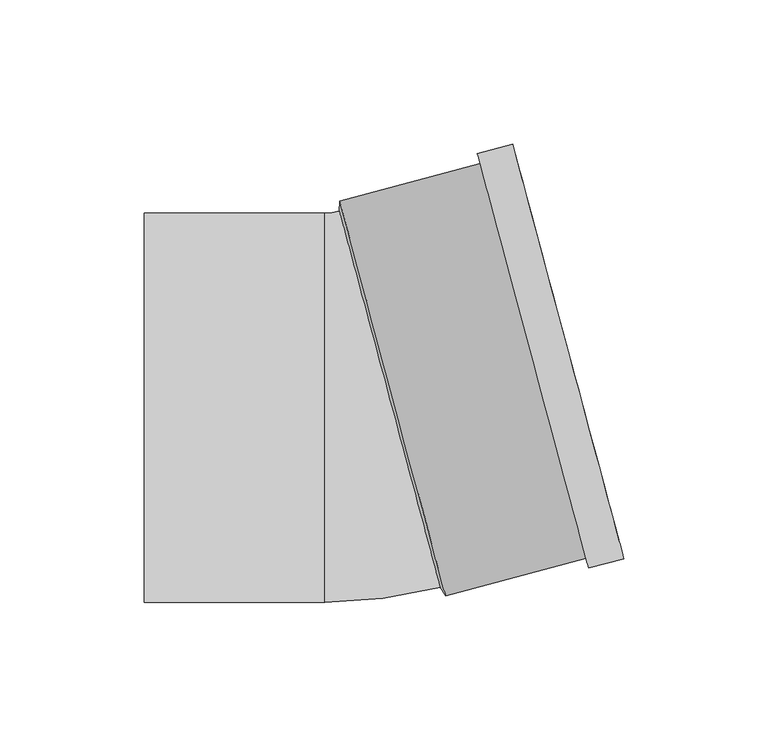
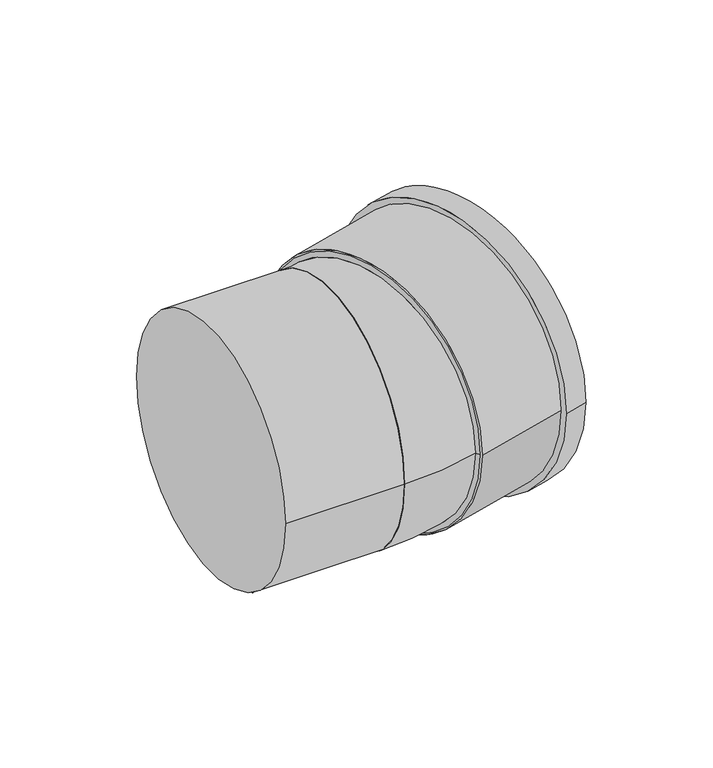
"""IFC4 building model written with IfcOpenShell, lengths in millimetres: pipe fitting geometry, Superdrain SKB Bend : Superdrain SKB Bend."""

from ifc_helpers import new_model, si_unit, point, frame, origin, origin_2d, place, context, project, spatial, polyline, circle_curve, ellipse_curve, trimmed, segment, composite_curve, outline, extrude, source, transform, mapped, element, save
from ifc_brep_helpers import plane_surface, revolved_surface, advanced_brep


def pipe_fitting_2441ba4f(model_context):
    return source(origin(), model_context, "Body", "SolidModel", [
        advanced_brep(
        [(28.5784325, -62.2235743, 0.0), (-6.3621385, 68.1764123, 0.0), (-11.5, -67.5, 0.0), (-11.5, 67.5, 0.0)],
        [
            (0, 1, circle_curve(frame((11.108147, 2.976419, 0.0), z_axis=(0.9659258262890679, 0.25881904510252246, 0.0), x_axis=(-0.25881904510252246, 0.9659258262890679, 0.0)), 67.5)),
            (1, 0, circle_curve(frame((11.108147, 2.976419, 0.0), z_axis=(0.9659258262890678, 0.2588190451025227, 0.0), x_axis=(-0.2588190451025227, 0.9659258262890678, 0.0)), 67.5)),
            (2, 3, circle_curve(frame((-11.5, 0.0, 0.0), z_axis=(-1.0, 0.0, 0.0), x_axis=(0.0, 1.0, 0.0)), 67.5)),
            (3, 2, circle_curve(frame((-11.5, 0.0, 0.0), z_axis=(-1.0, 0.0, 0.0), x_axis=(0.0, 1.0, 0.0)), 67.5)),
            (3, 1, circle_curve(frame((-11.5, 87.3511723, 0.0), z_axis=(0.0, 0.0, 1.0), x_axis=(1.0, 0.0, 0.0)), 19.8511723)),
            (0, 2, circle_curve(frame((-11.5, 87.3511723, 0.0), z_axis=(0.0, 0.0, -1.0), x_axis=(1.0, 0.0, 0.0)), 154.8511723)),
        ],
        [
            plane_surface(frame((11.108147, 2.976419, 0.0), z_axis=(0.9659258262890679, 0.25881904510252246, 0.0), x_axis=(0.0, 0.0, -1.0))),
            plane_surface(frame((-11.5, 0.0, 0.0), z_axis=(-1.0, 0.0, 0.0), x_axis=(0.0, 0.0, -1.0))),
            revolved_surface(trimmed(ellipse_curve(frame((75.8511723, 87.3511723, 0.0), z_axis=(0.0, -1.0, 0.0), x_axis=(-1.0, 0.0, 0.0)), 67.5, 67.5), [point((8.3511723, 87.3511723, 0.0))], [point((143.3511723, 87.3511723, 0.0))], True, "CARTESIAN"), (-11.5, 87.3511723, 0.0), (0.0, 0.0, 1.0)),
            revolved_surface(trimmed(ellipse_curve(frame((75.8511723, 87.3511723, 0.0), z_axis=(0.0, -1.0, 0.0), x_axis=(-1.0, 0.0, 0.0)), 67.5, 67.5), [point((143.3511723, 87.3511723, 0.0))], [point((8.3511723, 87.3511723, 0.0))], True, "CARTESIAN"), (-11.5, 87.3511723, 0.0), (0.0, 0.0, 1.0)),
        ],
        [
            (0, [[1, 2]]),
            (1, [[3, 4]]),
            (2, [[-4, 5, -1, 6]]),
            (3, [[-3, -6, -2, -5]]),
        ],
    ),
        extrude(outline(composite_curve([segment(trimmed(circle_curve(origin_2d(), 70.875), [point((0.0, 70.8750001))], [point((0.0, -70.875))], False, "CARTESIAN"), True, "CONTINUOUS"), segment(trimmed(circle_curve(origin_2d(), 70.875), [point((0.0, -70.875))], [point((0.0, 70.8750001))], False, "CARTESIAN"), True, "CONTINUOUS")], self_intersect=False), holes=[composite_curve([segment(trimmed(circle_curve(origin_2d(), 67.5), [point((0.0, 67.5))], [point((0.0, -67.4999999))], True, "CARTESIAN"), True, "CONTINUOUS"), segment(trimmed(circle_curve(origin_2d(), 67.5), [point((0.0, -67.4999999))], [point((0.0, 67.5))], True, "CARTESIAN"), True, "CONTINUOUS")], self_intersect=False)]), frame((12.0740728, 3.2352381, 0.0), z_axis=(0.9659258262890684, 0.2588190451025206, 0.0), x_axis=(0.0, 0.0, 1.0)), (0.0, 0.0, 1.0), 63.0),
        extrude(outline(composite_curve([segment(trimmed(circle_curve(origin_2d(), 74.41875), [point((0.0, -74.41875))], [point((0.0, 74.4187499))], False, "CARTESIAN"), True, "CONTINUOUS"), segment(trimmed(circle_curve(origin_2d(), 74.41875), [point((0.0, 74.4187499))], [point((0.0, -74.41875))], False, "CARTESIAN"), True, "CONTINUOUS")], self_intersect=False), holes=[composite_curve([segment(trimmed(circle_curve(origin_2d(), 67.5), [point((0.0, -67.5))], [point((0.0, 67.4999999))], True, "CARTESIAN"), True, "CONTINUOUS"), segment(trimmed(circle_curve(origin_2d(), 67.5), [point((0.0, 67.4999999))], [point((0.0, -67.5))], True, "CARTESIAN"), True, "CONTINUOUS")], self_intersect=False)]), frame((60.7567345, 16.2797179, 0.0), z_axis=(0.9659258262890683, 0.25881904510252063, 0.0), x_axis=(0.0, 0.0, 1.0)), (0.0, 0.0, 1.0), 12.6),
        advanced_brep(
        [(30.4178727, -65.2247549, 0.0), (-6.269727, 71.695231, 0.0), (28.5784325, -62.2235743, 0.0), (-6.3621385, 68.1764123, 0.0)],
        [
            (0, 1, circle_curve(frame((12.0740728, 3.2352381, 0.0), z_axis=(0.9659258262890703, 0.25881904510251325, 0.0), x_axis=(0.25881904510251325, -0.9659258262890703, 0.0)), 70.875)),
            (1, 0, circle_curve(frame((12.0740728, 3.2352381, 0.0), z_axis=(0.9659258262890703, 0.25881904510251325, 0.0), x_axis=(-0.2588190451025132, 0.9659258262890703, 0.0)), 70.875)),
            (2, 3, circle_curve(frame((11.108147, 2.976419, 0.0), z_axis=(-0.9659258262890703, -0.25881904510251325, 0.0), x_axis=(-0.2588190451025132, 0.9659258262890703, 0.0)), 67.5)),
            (3, 2, circle_curve(frame((11.108147, 2.976419, 0.0), z_axis=(-0.9659258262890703, -0.25881904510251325, 0.0), x_axis=(0.25881904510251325, -0.9659258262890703, 0.0)), 67.5)),
            (3, 1),
            (0, 2),
        ],
        [
            plane_surface(frame((12.0740728, 3.2352381, 0.0), z_axis=(0.9659258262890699, 0.2588190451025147, 0.0), x_axis=(0.0, 0.0, -1.0))),
            plane_surface(frame((11.108147, 2.976419, 0.0), z_axis=(-0.9659258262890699, -0.2588190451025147, 0.0), x_axis=(0.0, 0.0, -1.0))),
            revolved_surface(polyline([(-6.362138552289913, 68.17641211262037, 0.0), (-6.2697269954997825, 71.69523117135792, 0.0)]), (-8.2103695, -2.1999619, 0.0), (0.9659258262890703, 0.25881904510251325, 0.0)),
            revolved_surface(polyline([(28.578432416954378, -62.22357399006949, 0.0), (30.417872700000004, -65.2247549, 0.0)]), (-8.2103695, -2.1999619, 0.0), (0.9659258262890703, 0.25881904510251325, 0.0)),
        ],
        [
            (0, [[1, 2]]),
            (1, [[3, 4]]),
            (2, [[-4, 5, -1, 6]]),
            (3, [[-3, -6, -2, -5]]),
        ],
    ),
        extrude(outline(composite_curve([segment(trimmed(circle_curve(origin_2d(), 67.5), [point((-67.5, 0.0))], [point((67.5, 0.0))], False, "CARTESIAN"), True, "CONTINUOUS"), segment(trimmed(circle_curve(origin_2d(), 67.5), [point((67.5, 0.0))], [point((-67.5, 0.0))], False, "CARTESIAN"), True, "CONTINUOUS")], self_intersect=False)), frame((-74.0, 0.0, 0.0), z_axis=(1.0, 0.0, 0.0), x_axis=(0.0, 1.0, 0.0)), (0.0, 0.0, 1.0), 62.5),
    ])


if __name__ == "__main__":
    model = new_model("IFC4")
    model_context = context("Model", 3, world=origin())
    ifc_project = project(units=[si_unit("LENGTHUNIT", "METRE", prefix="MILLI")], contexts=[model_context])
    site = spatial("IfcSite", under=ifc_project)
    building = spatial("IfcBuilding", under=site)
    placement = place(None, origin())
    pipe_fitting_shape = pipe_fitting_2441ba4f(model_context)
    element("IfcPipeFitting", 1, ObjectType="Superdrain SKB Bend : Superdrain SKB Bend", at=placement, inside=building, context=model_context, shape_type="MappedRepresentation", body=[
        mapped(pipe_fitting_shape, transform((0.0, 0.0, 0.0), x_axis=(1.0, 0.0, 0.0), y_axis=(0.0, 1.0, 0.0), z_axis=(0.0, 0.0, 1.0))),
    ])
    save(model, "model.ifc")
